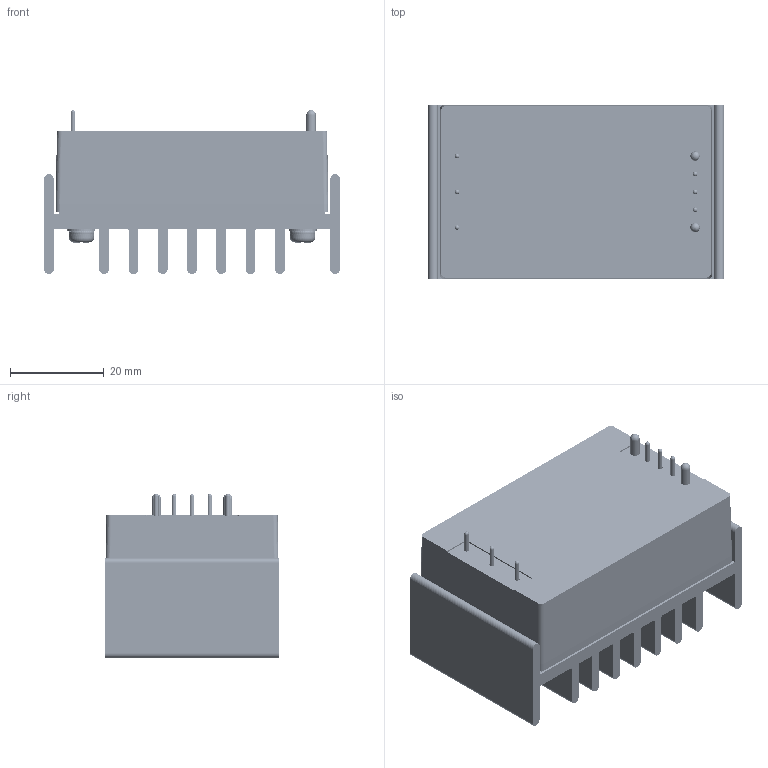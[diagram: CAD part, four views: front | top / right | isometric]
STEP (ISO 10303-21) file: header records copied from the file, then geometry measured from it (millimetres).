
FILE_DESCRIPTION(/* description */ (''),/* implementation_level */ '2;1');
FILE_NAME(/* name */ 'C:\Users\QIU\Desktop\MRZI100-I150+HS6.stp',/* time_stamp */ '2021-02-09T13:12:05+08:00',/* author */ ('QIU'),/* organization */ (''),/* preprocessor_version */ 'ST-DEVELOPER v15.2',/* originating_system */ 'Autodesk Inventor 2014',/* authorisation */ '');
FILE_SCHEMA (('AUTOMOTIVE_DESIGN { 1 0 10303 214 3 1 1 }'));
Products named in the file (70): MTQZI100S24主板(MTQZI100S-24Vo R-2); IC6; IC(PIN -16); T4; C40; 散熱片; T3; T5 BOBBIN(071-BB12)(0版)-\X2\8108885D8B8A58D3
56685E955EA7\X0\; T5  CORE; 橙-圈數; 紅-圈數; 紅-2B; 紅-2A; 橙-1A(上線); 紅-1B(下線); MTQZI100+I150脈衝變壓器組合-\X2\6D779DD781736B3E
\X0\(單組); 電感 ER CORE(\X2\6A196E964E0A96505C3A5BF8
\X0\); MTQZI100-I150電感成型圖(110S24線圈)-\X2\7DDA
5F91\X0\0.85mm; 084-IMTQZ-6(1版)-增加長寬; 電感 I CORE(標準上限尺寸); MTQZI100-110S24電感線圈固定膠帶; 電感絕緣盒(081-CMTQZ-5)(0版); MTQZI100-110S24電感外層固定膠帶(\X2\637762D37528
\X0\11.7); 電感點膠圖; 電感外圈平整膠帶; MTQZI100-110S24電感尺寸外觀圖(\X2\542B
9EDE81A0\X0\); MTQZI100-110S24主板半成品組合(1
08.12.24); T1 ER CORE(上限值); T1 I CORE(上限值); MTQZI100+I150 T1固定膠帶(\X2\8A554F30
\X0\T1絕緣盒用); MTQZI100+I150變壓器固定盒(081-CMT
QZ-6)(0版); 絕緣盒固定膠帶-\X2\694A526F7406
6B3E\X0\; Q100-2S R2; Q100-8P; Q100-2S-4SD R2; MTQZI100-110S05線圈板組合(108.8.1); 變壓器一二次側PIN(085-PIN-99)(2
版); 085-PIN-42; MTQZI100-110S05線圈板正面接腳; MTQZI100-110S24單組變壓器總組合 ...
Bounding box: 63.2 x 37.1 x 35 mm (x, y, z)
Volume: 37657.4 mm3; surface area: 63510.8 mm2
Topology: 109 solids, 232 shells, 8254 faces, 18397 edges, 10201 vertices
Faces by surface type: plane 2842, cylinder 2215, torus 2162, bspline 998, sphere 23, cone 14
Full cylindrical faces by diameter (mm): 0.14 x48, 0.15 x240, 0.5 x3, 0.6 x5, 0.7 x7, 0.85 x8, 0.852 x2, 1 x19, 1.05 x6, 1.1 x1, 1.2 x21, 1.3 x1, 1.4 x5, 1.5 x25, 1.7 x4, 2 x2, 2.05 x2, 2.1 x2, 2.5 x2, 2.693 x2, 3 x2, 3.2 x2, 3.5 x8, 4 x2, 4.7 x4, 4.8 x2, 6 x2, 8.8 x2, 9.1 x3, 10.2 x1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
Entity records: 237445 total; most frequent: CARTESIAN_POINT 58569, ORIENTED_EDGE 37452, DIRECTION 35363, EDGE_CURVE 17212, AXIS2_PLACEMENT_3D 13499, VERTEX_POINT 9666, EDGE_LOOP 8576, LINE 8365
